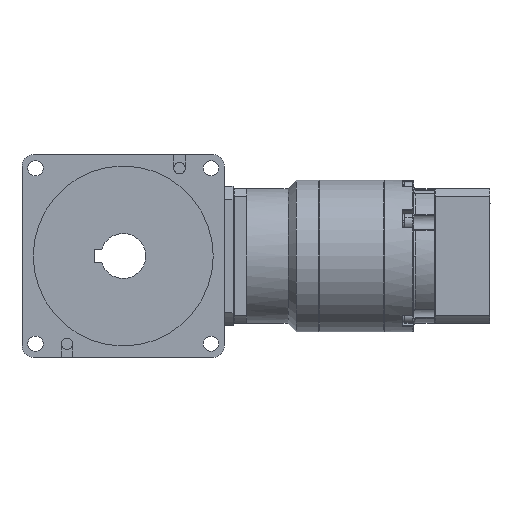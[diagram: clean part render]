
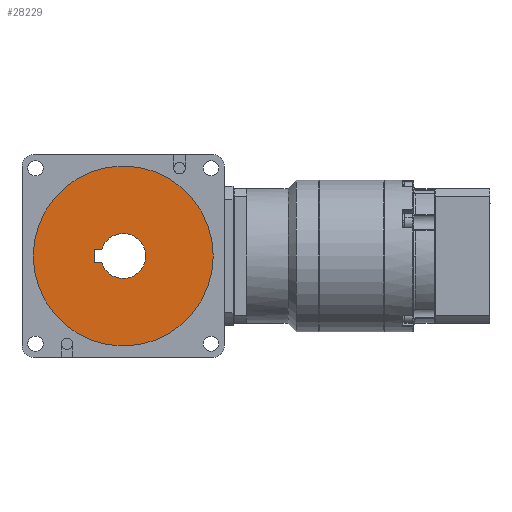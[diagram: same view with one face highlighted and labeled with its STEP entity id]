
A CAD part, left-side view. The second image highlights one B-rep face of the part: STEP entity #28229.
In plain terms, the highlighted planar face has unit normal (-1, 0, 0).
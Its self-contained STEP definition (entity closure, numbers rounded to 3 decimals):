
#571 = VECTOR ( 'NONE', #40067, 1000. ) ;
#625 = CIRCLE ( 'NONE', #9198, 40. ) ;
#867 = VERTEX_POINT ( 'NONE', #37081 ) ;
#1918 = FACE_OUTER_BOUND ( 'NONE', #31376, .T. ) ;
#2565 = DIRECTION ( 'NONE',  ( -1., 0., 0. ) ) ;
#4657 = CARTESIAN_POINT ( 'NONE',  ( -31.5, 0., 0. ) ) ;
#5290 = DIRECTION ( 'NONE',  ( 0., 0., 1. ) ) ;
#5823 = CARTESIAN_POINT ( 'NONE',  ( -31.5, 0., 0. ) ) ;
#5838 = VERTEX_POINT ( 'NONE', #23532 ) ;
#6943 = DIRECTION ( 'NONE',  ( 0., 0., 1. ) ) ;
#9198 = AXIS2_PLACEMENT_3D ( 'NONE', #29835, #2565, #43678 ) ;
#9240 = VECTOR ( 'NONE', #30175, 1000. ) ;
#9382 = DIRECTION ( 'NONE',  ( 0., 0., 1. ) ) ;
#9625 = DIRECTION ( 'NONE',  ( 0., 0., 1. ) ) ;
#9930 = CARTESIAN_POINT ( 'NONE',  ( -31.5, 0., 3. ) ) ;
#10126 = EDGE_CURVE ( 'NONE', #35477, #23793, #625, .T. ) ;
#10700 = ORIENTED_EDGE ( 'NONE', *, *, #37475, .F. ) ;
#11158 = ORIENTED_EDGE ( 'NONE', *, *, #26056, .F. ) ;
#12856 = LINE ( 'NONE', #9930, #571 ) ;
#14290 = DIRECTION ( 'NONE',  ( -1., 0., 0. ) ) ;
#14825 = ORIENTED_EDGE ( 'NONE', *, *, #33799, .F. ) ;
#15469 = CARTESIAN_POINT ( 'NONE',  ( -31.5, 9.539, -3. ) ) ;
#15973 = EDGE_LOOP ( 'NONE', ( #28737, #25960, #34689, #14825, #10700, #11158 ) ) ;
#16129 = LINE ( 'NONE', #29738, #42733 ) ;
#16530 = AXIS2_PLACEMENT_3D ( 'NONE', #43395, #18893, #32251 ) ;
#16689 = CIRCLE ( 'NONE', #41593, 40. ) ;
#16812 = DIRECTION ( 'NONE',  ( -1., 0., 0. ) ) ;
#16905 = ORIENTED_EDGE ( 'NONE', *, *, #10126, .T. ) ;
#17411 = AXIS2_PLACEMENT_3D ( 'NONE', #38775, #22304, #5290 ) ;
#18020 = CARTESIAN_POINT ( 'NONE',  ( -31.5, 12.8, 3. ) ) ;
#18893 = DIRECTION ( 'NONE',  ( -1., 0., 0. ) ) ;
#19320 = AXIS2_PLACEMENT_3D ( 'NONE', #5823, #16812, #9625 ) ;
#19562 = CARTESIAN_POINT ( 'NONE',  ( -31.5, 0., 40. ) ) ;
#21969 = CARTESIAN_POINT ( 'NONE',  ( -31.5, 0., -10. ) ) ;
#22255 = CIRCLE ( 'NONE', #37986, 10. ) ;
#22304 = DIRECTION ( 'NONE',  ( -1., 0., 0. ) ) ;
#22733 = VERTEX_POINT ( 'NONE', #21969 ) ;
#23532 = CARTESIAN_POINT ( 'NONE',  ( -31.5, 0., 10. ) ) ;
#23793 = VERTEX_POINT ( 'NONE', #19562 ) ;
#24006 = ORIENTED_EDGE ( 'NONE', *, *, #39256, .T. ) ;
#24384 = DIRECTION ( 'NONE',  ( -1., 0., 0. ) ) ;
#25960 = ORIENTED_EDGE ( 'NONE', *, *, #34980, .T. ) ;
#26056 = EDGE_CURVE ( 'NONE', #22733, #5838, #22255, .T. ) ;
#28229 = ADVANCED_FACE ( 'NONE', ( #35857, #1918 ), #28755, .T. ) ;
#28552 = DIRECTION ( 'NONE',  ( 0., 0., 1. ) ) ;
#28581 = CIRCLE ( 'NONE', #19320, 10. ) ;
#28737 = ORIENTED_EDGE ( 'NONE', *, *, #36753, .F. ) ;
#28755 = PLANE ( 'NONE',  #17411 ) ;
#29347 = CIRCLE ( 'NONE', #16530, 10. ) ;
#29420 = CARTESIAN_POINT ( 'NONE',  ( -31.5, 9.539, 3. ) ) ;
#29514 = CARTESIAN_POINT ( 'NONE',  ( -31.5, 0., -3. ) ) ;
#29738 = CARTESIAN_POINT ( 'NONE',  ( -31.5, 12.8, 0. ) ) ;
#29835 = CARTESIAN_POINT ( 'NONE',  ( -31.5, 0., 0. ) ) ;
#30175 = DIRECTION ( 'NONE',  ( 0., 1., 0. ) ) ;
#30938 = LINE ( 'NONE', #29514, #9240 ) ;
#31376 = EDGE_LOOP ( 'NONE', ( #24006, #16905 ) ) ;
#32251 = DIRECTION ( 'NONE',  ( 0., 0., 1. ) ) ;
#33799 = EDGE_CURVE ( 'NONE', #39831, #37360, #12856, .T. ) ;
#34689 = ORIENTED_EDGE ( 'NONE', *, *, #35109, .T. ) ;
#34980 = EDGE_CURVE ( 'NONE', #38080, #867, #30938, .T. ) ;
#35109 = EDGE_CURVE ( 'NONE', #867, #37360, #16129, .T. ) ;
#35477 = VERTEX_POINT ( 'NONE', #36562 ) ;
#35857 = FACE_BOUND ( 'NONE', #15973, .T. ) ;
#36562 = CARTESIAN_POINT ( 'NONE',  ( -31.5, 0., -40. ) ) ;
#36753 = EDGE_CURVE ( 'NONE', #38080, #22733, #28581, .T. ) ;
#37081 = CARTESIAN_POINT ( 'NONE',  ( -31.5, 12.8, -3. ) ) ;
#37360 = VERTEX_POINT ( 'NONE', #18020 ) ;
#37475 = EDGE_CURVE ( 'NONE', #5838, #39831, #29347, .T. ) ;
#37516 = CARTESIAN_POINT ( 'NONE',  ( -31.5, 0., 0. ) ) ;
#37986 = AXIS2_PLACEMENT_3D ( 'NONE', #4657, #14290, #28552 ) ;
#38080 = VERTEX_POINT ( 'NONE', #15469 ) ;
#38775 = CARTESIAN_POINT ( 'NONE',  ( -31.5, 0., 0. ) ) ;
#39256 = EDGE_CURVE ( 'NONE', #23793, #35477, #16689, .T. ) ;
#39831 = VERTEX_POINT ( 'NONE', #29420 ) ;
#40067 = DIRECTION ( 'NONE',  ( 0., 1., 0. ) ) ;
#41593 = AXIS2_PLACEMENT_3D ( 'NONE', #37516, #24384, #6943 ) ;
#42733 = VECTOR ( 'NONE', #9382, 1000. ) ;
#43395 = CARTESIAN_POINT ( 'NONE',  ( -31.5, 0., 0. ) ) ;
#43678 = DIRECTION ( 'NONE',  ( 0., 0., 1. ) ) ;
